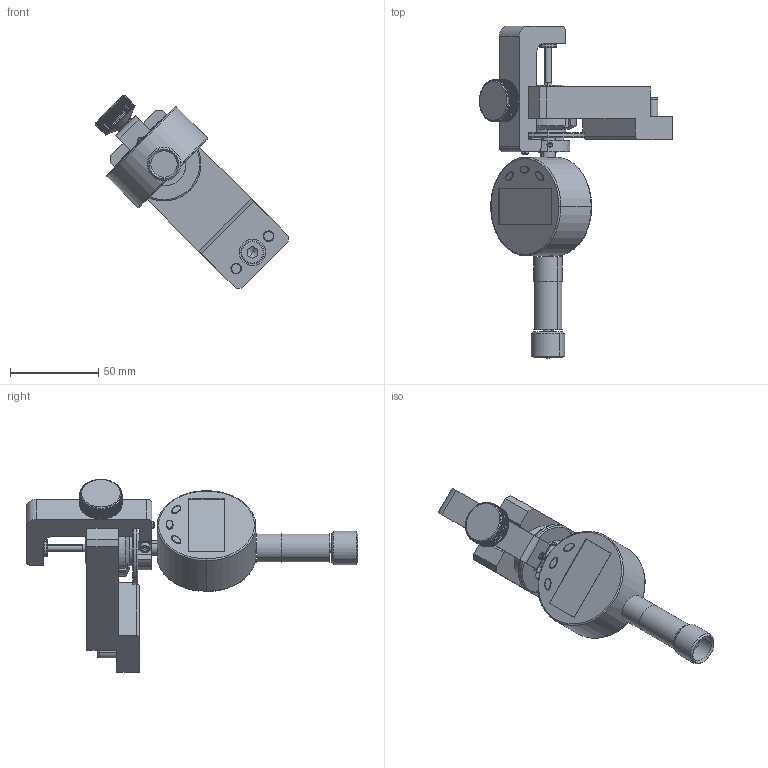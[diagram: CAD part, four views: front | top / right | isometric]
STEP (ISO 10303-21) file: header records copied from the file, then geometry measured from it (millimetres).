
FILE_DESCRIPTION(('CATIA V5 STEP Exchange'),'2;1');
FILE_NAME('C:\Dokumente und Einstellungen\Administrator\Desktop\deep-tech-eng\Kontakte\D\DTE\VORLAGEN\Downloadinfos_von_DTE\Messuhr_fest_gekroepft\S0002-02-Teller_gekroepft_ZSB_MESSUHR_FEST+MASTER_BUGEL_AN_MESSUHR_AllCATPart.stp','2010-11-07T10:49:32+00:00',('none'),('none'),'CATIA Version 5 Release 19 GA (IN-10)','CATIA V5 STEP AP203','none');
FILE_SCHEMA(('CONFIG_CONTROL_DESIGN'));
Length unit declared in the file: millimetre
Products named in the file (1): S0002-02-Teller_gekroepft_ZSB_MESSUHR_FEST+MASTER_BUGEL_AN_MESSUHR_AllCATPart
Bounding box: 109.6 x 188.5 x 109.6 mm (x, y, z)
Volume: 190404.1 mm3; surface area: 58090.9 mm2
Topology: 24 solids, 25 shells, 701 faces, 1796 edges, 1166 vertices
Faces by surface type: plane 343, cylinder 241, cone 85, torus 16, extrusion 6, bspline 6, sphere 4
Entity records: 21655 total; most frequent: CARTESIAN_POINT 6263, ORIENTED_EDGE 3588, DIRECTION 2364, EDGE_CURVE 1794, VERTEX_POINT 1163, AXIS2_PLACEMENT_3D 1104, EDGE_LOOP 759, VECTOR 741
